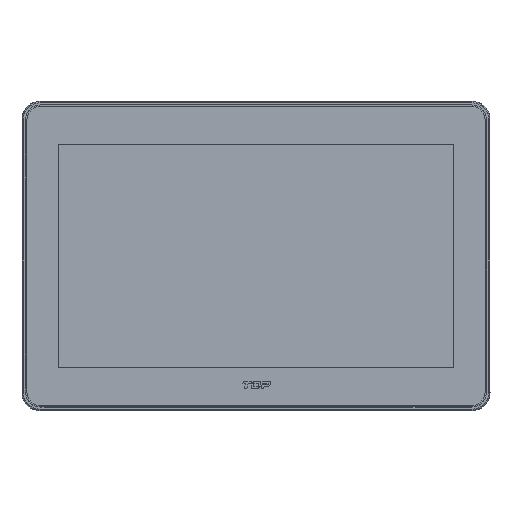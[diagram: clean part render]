
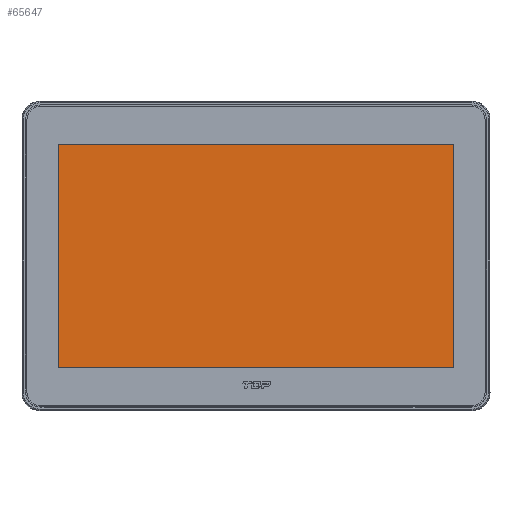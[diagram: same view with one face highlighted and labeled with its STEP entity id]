
A CAD part, top view. The second image highlights one B-rep face of the part: STEP entity #65647.
In plain terms, the highlighted planar face has unit normal (0, 0, 1).
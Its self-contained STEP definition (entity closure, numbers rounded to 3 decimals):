
#974=DIRECTION('',(0.,-1.,0.));
#975=VECTOR('',#974,126.4);
#976=CARTESIAN_POINT('',(-111.85,63.2,4.8));
#977=LINE('',#976,#975);
#986=DIRECTION('',(-1.,0.,0.));
#987=VECTOR('',#986,223.7);
#988=CARTESIAN_POINT('',(111.85,63.2,4.8));
#989=LINE('',#988,#987);
#994=DIRECTION('',(0.,1.,0.));
#995=VECTOR('',#994,126.4);
#996=CARTESIAN_POINT('',(111.85,-63.2,4.8));
#997=LINE('',#996,#995);
#998=DIRECTION('',(1.,0.,0.));
#999=VECTOR('',#998,223.7);
#1000=CARTESIAN_POINT('',(-111.85,-63.2,4.8));
#1001=LINE('',#1000,#999);
#51519=CARTESIAN_POINT('',(-111.85,63.2,4.8));
#51520=VERTEX_POINT('',#51519);
#51521=CARTESIAN_POINT('',(-111.85,-63.2,4.8));
#51522=VERTEX_POINT('',#51521);
#51523=CARTESIAN_POINT('',(111.85,63.2,4.8));
#51524=VERTEX_POINT('',#51523);
#51525=CARTESIAN_POINT('',(111.85,-63.2,4.8));
#51526=VERTEX_POINT('',#51525);
#65636=CARTESIAN_POINT('',(0.,0.,4.8));
#65637=DIRECTION('',(0.,0.,1.));
#65638=DIRECTION('',(1.,0.,0.));
#65639=AXIS2_PLACEMENT_3D('',#65636,#65637,#65638);
#65640=PLANE('',#65639);
#65641=ORIENTED_EDGE('',*,*,#65588,.F.);
#65642=ORIENTED_EDGE('',*,*,#65603,.F.);
#65643=ORIENTED_EDGE('',*,*,#65617,.F.);
#65644=ORIENTED_EDGE('',*,*,#65630,.F.);
#65645=EDGE_LOOP('',(#65641,#65642,#65643,#65644));
#65646=FACE_OUTER_BOUND('',#65645,.F.);
#65647=ADVANCED_FACE('',(#65646),#65640,.T.);
#65588=EDGE_CURVE('',#51520,#51522,#977,.T.);
#65603=EDGE_CURVE('',#51524,#51520,#989,.T.);
#65617=EDGE_CURVE('',#51526,#51524,#997,.T.);
#65630=EDGE_CURVE('',#51522,#51526,#1001,.T.);
